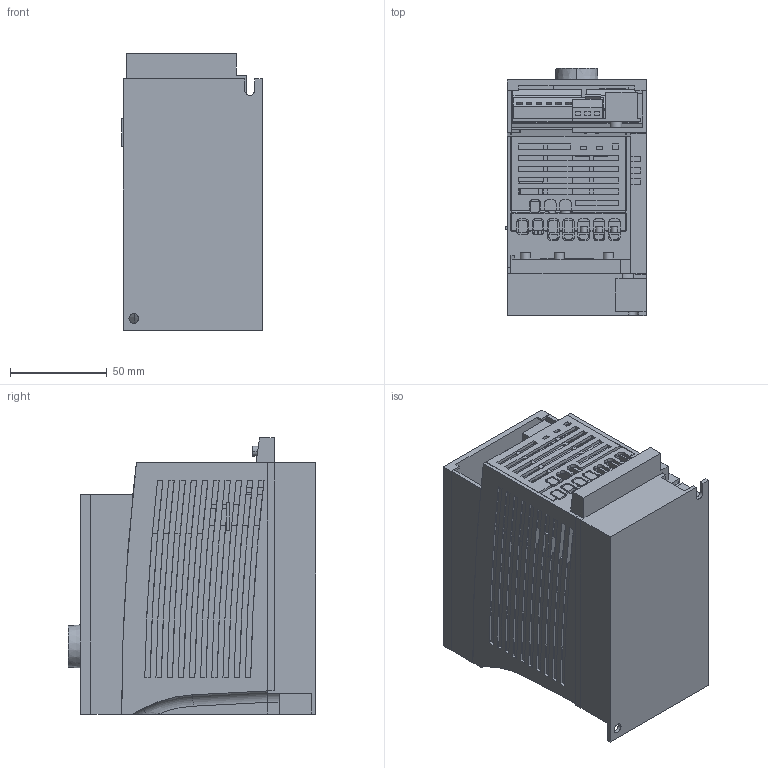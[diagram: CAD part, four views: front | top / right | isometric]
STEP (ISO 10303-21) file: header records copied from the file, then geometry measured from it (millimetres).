
FILE_DESCRIPTION((''),'2;1');
FILE_NAME('MCADID0000926_3D-SIMPLIFIED_ASM','2026-03-25T11:46:43',('SESA537874'),('Schneider-Electric'),'CREO PARAMETRIC BY PTC INC, 2025093','CREO PARAMETRIC BY PTC INC, 2025093','');
FILE_SCHEMA(('AP242_MANAGED_MODEL_BASED_3D_ENGINEERING_MIM_LF { 1 0 10303 442 1 1 4 }'));
Length unit declared in the file: millimetre
Products named in the file (17): ATV320U04M2C_1-52; ATV320U04M2C_2; ATV320U04M2C_3; ATV320U04M2C_4; ATV320U04M2C_5; ATV320U04M2C_6; ATV320U04M2C_7; ATV320U04M2C_8; ATV320U04M2C_9; ATV320U04M2C_10; ATV320U04M2C_11; ATV320U04M2C_12; ATV320U04M2C_13; ATV320U04M2C_14; ATV320U04M2C_15; ATV320U04M2C_1-27_ASM; MCADID0000926_3D-SIMPLIFIED_ASM
Assembly tree (16 placements, depth 3):
  MCADID0000926_3D-SIMPLIFIED_ASM
    ATV320U04M2C_1-27_ASM
      ATV320U04M2C_1-52
      ATV320U04M2C_2
      ATV320U04M2C_3
      ATV320U04M2C_4
      ATV320U04M2C_5
      ATV320U04M2C_6
      ATV320U04M2C_7
      ATV320U04M2C_8
      ATV320U04M2C_9
      ATV320U04M2C_10
      ATV320U04M2C_11
      ATV320U04M2C_12
      ATV320U04M2C_13
      ATV320U04M2C_14
      ATV320U04M2C_15
Bounding box: 72.75 x 128.06 x 142.95 mm (x, y, z)
Volume: 973025.8 mm3; surface area: 176510.1 mm2
Topology: 17 solids, 17 shells, 1429 faces, 3914 edges, 2601 vertices
Faces by surface type: plane 1183, cylinder 243, cone 2, torus 1
Entity records: 46221 total; most frequent: CARTESIAN_POINT 8219, ORIENTED_EDGE 7828, DIRECTION 7434, EDGE_CURVE 3914, VECTOR 3272, LINE 3272, VERTEX_POINT 2601, AXIS2_PLACEMENT_3D 2081
